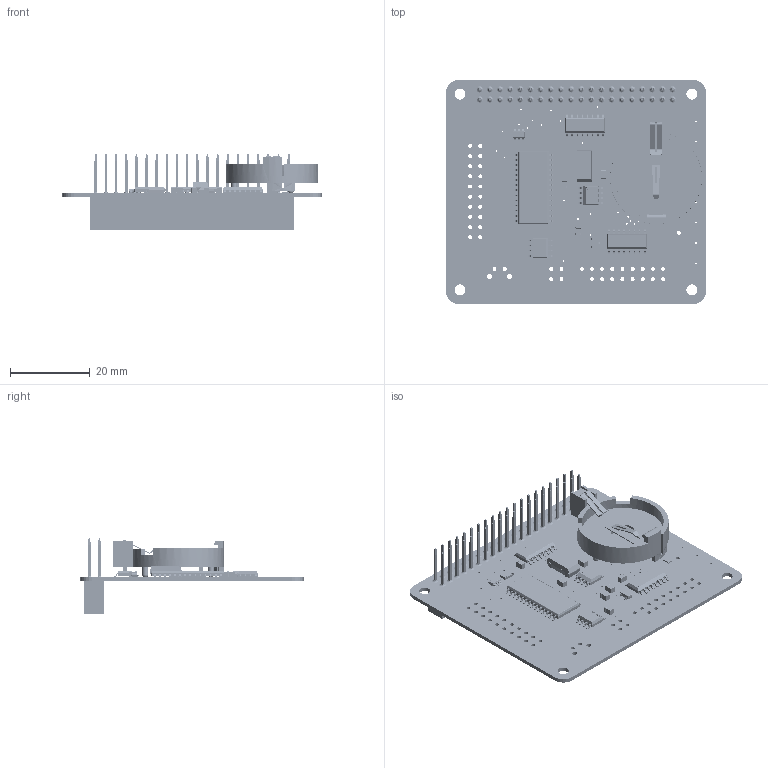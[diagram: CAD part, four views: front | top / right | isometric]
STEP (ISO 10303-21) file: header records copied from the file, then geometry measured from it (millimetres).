
FILE_DESCRIPTION(/* description */ (''),/* implementation_level */ '2;1');
FILE_NAME(/* name */ 'C:/Users/andrew/Desktop/expander-pi-2.0.step',/* time_stamp */ '2018-08-23T10:48:16+01:00',/* author */ ('and101'),/* organization */ (''),/* preprocessor_version */ 'ST-DEVELOPER v17.2',/* originating_system */ 'Autodesk Translation Framework v7.6.0.251',/* authorisation */ '');
FILE_SCHEMA (('AUTOMOTIVE_DESIGN { 1 0 10303 214 3 1 1 }'));
Products named in the file (14): expander-pi-2.0; Board_expander-pi; 1066; sot23-6; soic-16_150mil; soic-28_300mil; cap_0805; rescav-8_1.6x3.2x0; res_0805; 40_way_header; soic-8_150mil; soic-16_150mil (1); sot23; dso-4n
Assembly tree (20 placements, depth 2):
  expander-pi-2.0
    Board_expander-pi
    1066
    sot23-6
    soic-16_150mil
    soic-28_300mil
    cap_0805  x7
    rescav-8_1.6x3.2x0
    res_0805
    40_way_header
    soic-8_150mil  x2
    soic-16_150mil (1)
    sot23
    dso-4n
Bounding box: 65 x 56 x 18.97 mm (x, y, z)
Volume: 7981.9 mm3; surface area: 15355.5 mm2
Topology: 217 solids, 217 shells, 29179 faces, 44816 edges, 16052 vertices
Faces by surface type: plane 28785, cylinder 237, bspline 148, sphere 9
Full cylindrical faces by diameter (mm): 0.406 x61, 0.5 x2, 1 x84, 1.1 x2, 1.3 x2, 1.5 x3, 2.75 x4, 6 x1
Entity records: 561200 total; most frequent: DIRECTION 99020, CARTESIAN_POINT 90948, ORIENTED_EDGE 85796, EDGE_CURVE 42898, LINE 41770, VECTOR 41770, AXIS2_PLACEMENT_3D 28625, EDGE_LOOP 28234
